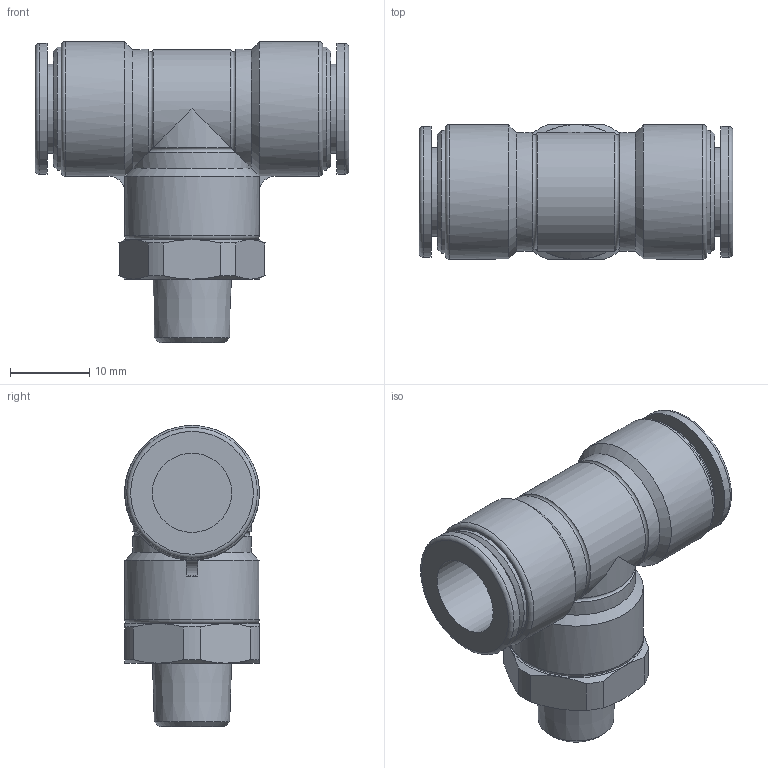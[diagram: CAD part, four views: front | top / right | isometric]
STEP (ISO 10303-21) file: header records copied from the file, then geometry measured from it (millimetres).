
FILE_DESCRIPTION(/* description */ (''),/* implementation_level */ '2;1');
FILE_NAME(/* name */ 'E:\2013年度版　3D-DATA\【02】 TOUCH CONNECTOR FIVE SUS\[03] MALE BRANCH TEE\[11] FS10-01MT FS10-01MTW.stp',/* time_stamp */ '2013-08-06T16:52:43+09:00',/* author */ ('takahashi-pc2'),/* organization */ (''),/* preprocessor_version */ 'ST-DEVELOPER v15.2',/* originating_system */ 'Autodesk Inventor 2014',/* authorisation */ '');
FILE_SCHEMA (('AUTOMOTIVE_DESIGN { 1 0 10303 214 3 1 1 }'));
Length unit declared in the file: millimetre
Products named in the file (1): [11] FS10-01MT FS10-01MTW
Bounding box: 39.6 x 17 x 38 mm (x, y, z)
Volume: 9565.9 mm3; surface area: 4996 mm2
Topology: 1 solids, 1 shells, 86 faces, 194 edges, 120 vertices
Faces by surface type: plane 31, cylinder 26, cone 20, torus 9
Full cylindrical faces by diameter (mm): 10 x2, 11.2 x2, 15.5 x2, 16.5 x2, 17 x3
Entity records: 2355 total; most frequent: CARTESIAN_POINT 531, DIRECTION 396, ORIENTED_EDGE 346, AXIS2_PLACEMENT_3D 176, EDGE_CURVE 173, VERTEX_POINT 119, EDGE_LOOP 116, ADVANCED_FACE 86
